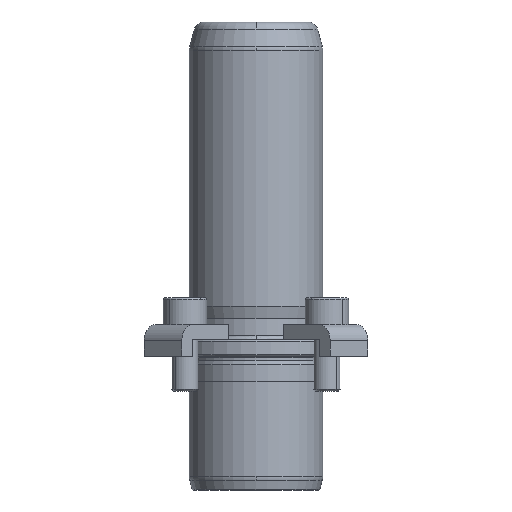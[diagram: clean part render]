
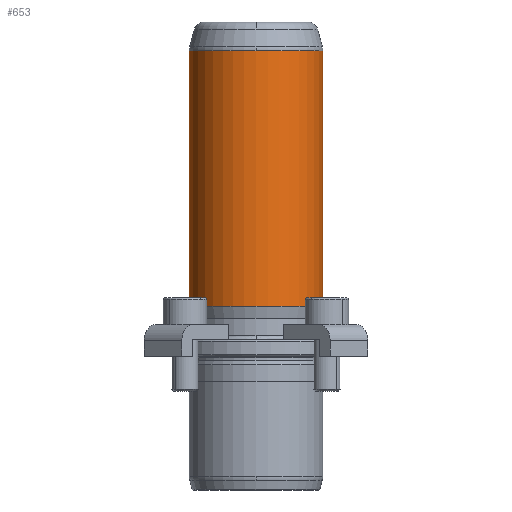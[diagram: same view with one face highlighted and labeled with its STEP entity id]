
A CAD part, front view. The second image highlights one B-rep face of the part: STEP entity #653.
In plain terms, the highlighted cylindrical face has radius 20 mm (diameter 40 mm), a partial arc.
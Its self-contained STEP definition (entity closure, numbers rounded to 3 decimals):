
#566=CARTESIAN_POINT('',(0.0,-20.,91.342));
#567=VERTEX_POINT('',#566);
#594=CARTESIAN_POINT('',(-20.0,0.,91.342));
#595=VERTEX_POINT('',#594);
#603=CARTESIAN_POINT('',(0.0,0.,91.342));
#604=DIRECTION('',(0.0,0.0,1.0));
#605=DIRECTION('',(1.0,0.0,0.0));
#606=AXIS2_PLACEMENT_3D('',#603,#604,#605);
#607=CIRCLE('',#606,20.0);
#608=EDGE_CURVE('',#595,#567,#607,.T.);
#613=CARTESIAN_POINT('',(0.0,0.,53.171));
#614=DIRECTION('',(0.0,0.,1.0));
#615=DIRECTION('',(1.0,0.0,0.0));
#616=AXIS2_PLACEMENT_3D('',#613,#614,#615);
#617=CYLINDRICAL_SURFACE('',#616,20.0);
#618=CARTESIAN_POINT('',(20.0,0.,91.342));
#619=VERTEX_POINT('',#618);
#620=CARTESIAN_POINT('',(20.0,0.,15.0));
#621=VERTEX_POINT('',#620);
#622=CARTESIAN_POINT('',(20.0,0.,91.342));
#623=DIRECTION('',(0.0,0.0,-1.0));
#624=VECTOR('',#623,76.342);
#625=LINE('',#622,#624);
#626=EDGE_CURVE('',#619,#621,#625,.T.);
#627=ORIENTED_EDGE('',*,*,#626,.F.);
#628=CARTESIAN_POINT('',(0.0,0.,91.342));
#629=DIRECTION('',(0.0,0.0,1.0));
#630=DIRECTION('',(1.0,0.0,0.0));
#631=AXIS2_PLACEMENT_3D('',#628,#629,#630);
#632=CIRCLE('',#631,20.0);
#633=EDGE_CURVE('',#567,#619,#632,.T.);
#634=ORIENTED_EDGE('',*,*,#633,.F.);
#635=ORIENTED_EDGE('',*,*,#608,.F.);
#636=CARTESIAN_POINT('',(-20.0,0.,15.0));
#637=VERTEX_POINT('',#636);
#638=CARTESIAN_POINT('',(-20.0,0.,91.342));
#639=DIRECTION('',(0.0,0.0,-1.0));
#640=VECTOR('',#639,76.342);
#641=LINE('',#638,#640);
#642=EDGE_CURVE('',#595,#637,#641,.T.);
#643=ORIENTED_EDGE('',*,*,#642,.T.);
#644=CARTESIAN_POINT('',(0.0,0.,15.0));
#645=DIRECTION('',(0.0,0.0,1.0));
#646=DIRECTION('',(1.0,0.0,0.0));
#647=AXIS2_PLACEMENT_3D('',#644,#645,#646);
#648=CIRCLE('',#647,20.0);
#649=EDGE_CURVE('',#637,#621,#648,.T.);
#650=ORIENTED_EDGE('',*,*,#649,.T.);
#651=EDGE_LOOP('',(#627,#634,#635,#643,#650));
#652=FACE_OUTER_BOUND('',#651,.T.);
#653=ADVANCED_FACE('',(#652),#617,.T.);
